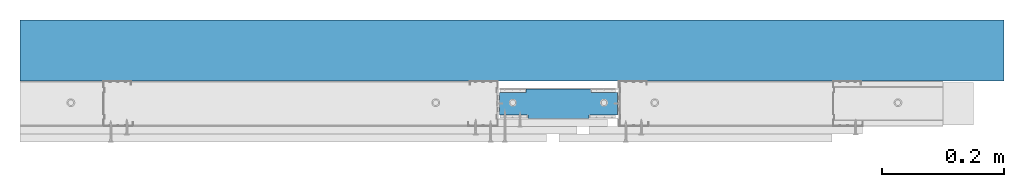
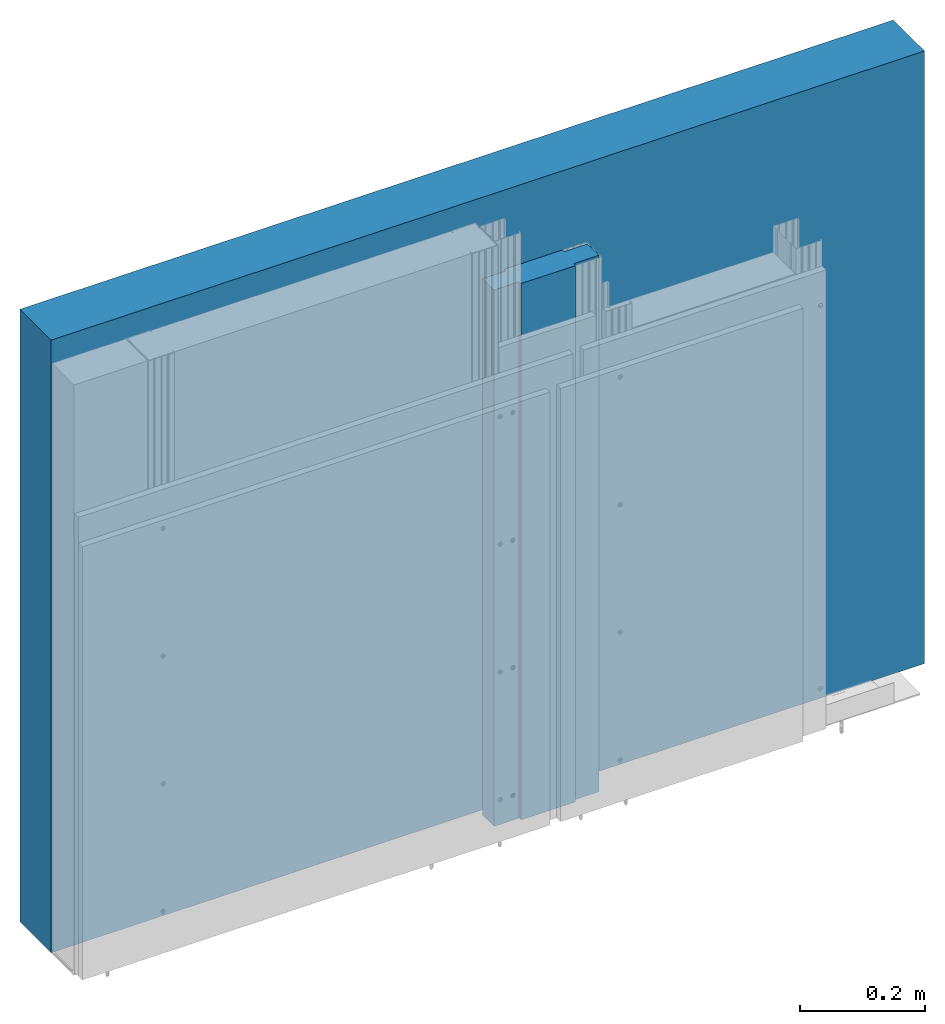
# One storey, part 1 of 39: 2 walls.
"""IFC2X3 building model written with IfcOpenShell, lengths in millimetres."""

import ifcopenshell
import ifcopenshell.guid

model = None  # the IFC model being written
_history = None  # IfcOwnerHistory: only IFC2X3 demands one
_inside = {}  # id of a spatial element -> (the spatial element, [elements in it])
_under = {}  # id of a project, library or spatial element -> (it, [spatial elements below it])
_declared = {}  # id of a project -> (the project, [libraries it declares])
_typed = {}  # id of a type object -> (the type object, [elements of that type])
_made_of = {}  # id of a material, layer set ... -> (it, [elements and type objects made of it])


def new_model(schema):
    """Start an empty IFC model of exactly this schema.

    Asked for "IFC4X3", IfcOpenShell would pick the latest addendum, in which some entities
    have other attributes; the version numbers below select the first issue.
    IFC2X3 requires an IfcOwnerHistory on every rooted entity: one is made here for all.
    """
    global model, _history
    if schema == "IFC4X3":
        model = ifcopenshell.file(schema_version=(4, 3, 0, 0))
    else:
        model = ifcopenshell.file(schema=schema)
    _inside.clear()
    _under.clear()
    _declared.clear()
    _typed.clear()
    _made_of.clear()
    _history = None
    if model.schema == "IFC2X3":
        org = make("IfcOrganization", Name="unknown")
        user = make(
            "IfcPersonAndOrganization",
            ThePerson=make("IfcPerson", FamilyName="unknown"),
            TheOrganization=org,
        )
        app = make(
            "IfcApplication",
            ApplicationDeveloper=org,
            Version="unknown",
            ApplicationFullName="unknown",
            ApplicationIdentifier="unknown",
        )
        _history = make(
            "IfcOwnerHistory",
            OwningUser=user,
            OwningApplication=app,
            ChangeAction="ADDED",
            CreationDate=0,
        )
    return model


def make(cls, **values):
    """One entity of the class cls with the attributes given. An attribute that is None is left unset."""
    return model.create_entity(
        cls, **{name: value for name, value in values.items() if value is not None}
    )


def entity(cls, *values):
    """Any entity or typed value of the class cls, its attributes in the order of the schema. None: left unset."""
    e = model.create_entity(cls)
    for i, value in enumerate(values):
        if value is not None:
            e[i] = value
    return e


def rooted(cls, **values):
    """An entity with a GlobalId (a new one), such as an element, a storey or a relation."""
    return make(cls, GlobalId=ifcopenshell.guid.new(), OwnerHistory=_history, **values)


def si_unit(unit_type, name, prefix=None):
    """IfcSIUnit, for example si_unit("LENGTHUNIT", "METRE", prefix="MILLI")."""
    return make("IfcSIUnit", UnitType=unit_type, Prefix=prefix, Name=name)


def converted_unit(unit_type, name, factor, base, dimensions=None, offset=None):
    """IfcConversionBasedUnit, such as the inch: factor (a typed value) times the base unit."""
    return make(
        "IfcConversionBasedUnit"
        if offset is None
        else "IfcConversionBasedUnitWithOffset",
        ConversionOffset=offset,
        Dimensions=None
        if dimensions is None
        else entity("IfcDimensionalExponents", *dimensions),
        UnitType=unit_type,
        Name=name,
        ConversionFactor=make(
            "IfcMeasureWithUnit", ValueComponent=factor, UnitComponent=base
        ),
    )


def assignment(units):
    """IfcUnitAssignment: the units of a project."""
    return None if units is None else make("IfcUnitAssignment", Units=units)


def point(xyz):
    """IfcCartesianPoint."""
    return None if xyz is None else make("IfcCartesianPoint", Coordinates=xyz)


def direction(xyz):
    """IfcDirection."""
    return None if xyz is None else make("IfcDirection", DirectionRatios=xyz)


def frame(location, z_axis=None, x_axis=None):
    """IfcAxis2Placement3D, a coordinate frame: its origin and axes. An axis left out is left unset."""
    return make(
        "IfcAxis2Placement3D",
        Location=point(location),
        Axis=direction(z_axis),
        RefDirection=direction(x_axis),
    )


def origin():
    """The frame at (0, 0, 0) with its axes left unset."""
    return frame((0.0, 0.0, 0.0))


def origin_with_axes():
    """The frame at (0, 0, 0) with the z axis (0, 0, 1) and the x axis (1, 0, 0) written out."""
    return frame((0.0, 0.0, 0.0), z_axis=(0.0, 0.0, 1.0), x_axis=(1.0, 0.0, 0.0))


def place(relative_to, where):
    """IfcLocalPlacement: puts the frame where relative to a parent placement (None: the world)."""
    return make(
        "IfcLocalPlacement", PlacementRelTo=relative_to, RelativePlacement=where
    )


def context(
    kind, dimensions, precision=None, world=None, true_north=None, identifier=None
):
    """IfcGeometricRepresentationContext, for example the 3D "Model" context."""
    return make(
        "IfcGeometricRepresentationContext",
        ContextIdentifier=identifier,
        ContextType=kind,
        CoordinateSpaceDimension=dimensions,
        Precision=precision,
        WorldCoordinateSystem=world,
        TrueNorth=true_north,
    )


def project(units=None, contexts=None):
    """IfcProject with its units and contexts."""
    return rooted(
        "IfcProject",
        Name="project",
        RepresentationContexts=contexts,
        UnitsInContext=assignment(units),
    )


def spatial(cls, under=None, at=None, **own):
    """A site, building, storey or space (cls), placed at a placement, below another one or the project."""
    s = rooted(cls, ObjectPlacement=at, **own)
    if under is not None:
        _under.setdefault(under.id(), (under, []))[1].append(s)
    return s


def faces_of(points, faces, orient=None, outer=None):
    """IfcFace entities. A face is a list of loops; a loop is a list of indices into points, from 0.

    orient and outer hold one flag for each loop. By default every Orientation is true, the
    first loop of a face is its IfcFaceOuterBound and the others are IfcFaceBound.
    """
    made = []
    for i, loops in enumerate(faces):
        bounds = []
        for j, loop in enumerate(loops):
            is_outer = j == 0 if outer is None else outer[i][j]
            bounds.append(
                make(
                    "IfcFaceOuterBound" if is_outer else "IfcFaceBound",
                    Bound=make("IfcPolyLoop", Polygon=[points[k] for k in loop]),
                    Orientation=True if orient is None else orient[i][j],
                )
            )
        made.append(make("IfcFace", Bounds=bounds))
    return made


def faceted_brep(points, faces, orient=None, outer=None, voids=None):
    """IfcFacetedBrep: a solid bounded by flat faces; with voids (closed shells), ...WithVoids."""
    shared = [point(p) for p in points]
    hull = make("IfcClosedShell", CfsFaces=faces_of(shared, faces, orient, outer))
    if voids is None:
        return make("IfcFacetedBrep", Outer=hull)
    return make(
        "IfcFacetedBrepWithVoids",
        Outer=hull,
        Voids=[
            make(cls, CfsFaces=faces_of(shared, fs, o, b)) for cls, fs, o, b in voids
        ],
    )


def shape(context_of_items, identifier, shape_type, items):
    """IfcShapeRepresentation: the items that make up one representation, for example the "Body"."""
    return make(
        "IfcShapeRepresentation",
        ContextOfItems=context_of_items,
        RepresentationIdentifier=identifier,
        RepresentationType=shape_type,
        Items=items,
    )


def made_of(thing, what):
    """Note that an element or type object is made of a material, layer set ...; save() writes the relation."""
    if what is not None:
        _made_of.setdefault(what.id(), (what, []))[1].append(thing)
    return thing


def element(
    cls,
    number,
    at=None,
    inside=None,
    cuts=None,
    type_object=None,
    material=None,
    context=None,
    identifier="Body",
    shape_type=None,
    held_by="IfcProductDefinitionShape",
    body=None,
    shapes=None,
    **own,
):
    """One element of the class cls, such as IfcWall. Its Tag is "e" and its number.

    at: its placement. inside: the storey or other place that contains it. cuts: it is an
    opening in that element (IfcRelVoidsElement). A single representation is given by context,
    identifier, shape_type and body (its items); several are given by shapes. held_by: the class
    of the entity that holds the representations. save() writes the other relations.
    """
    e = rooted(cls, Tag="e%d" % number, ObjectPlacement=at, **own)
    if body is not None:
        shapes = [shape(context, identifier, shape_type, body)]
    if shapes is not None:
        e.Representation = make(held_by, Representations=shapes)
    if inside is not None:
        _inside.setdefault(inside.id(), (inside, []))[1].append(e)
    if cuts is not None:
        rooted(
            "IfcRelVoidsElement", RelatingBuildingElement=cuts, RelatedOpeningElement=e
        )
    if type_object is not None:
        _typed.setdefault(type_object.id(), (type_object, []))[1].append(e)
    return made_of(e, material)


def aggregate(whole, parts):
    """IfcRelAggregates: a whole, such as a stair, and the parts it consists of."""
    return rooted("IfcRelAggregates", RelatingObject=whole, RelatedObjects=parts)


def save(model, path):
    """Write the relations noted so far, then the file.

    IfcRelAggregates (storeys below a building ...), IfcRelContainedInSpatialStructure (elements
    in a storey), IfcRelDefinesByType, IfcRelAssociatesMaterial and IfcRelDeclares: one each for
    every whole, place, type object, material and project.
    """
    for whole, parts in _under.values():
        aggregate(whole, parts)
    for where, things in _inside.values():
        rooted(
            "IfcRelContainedInSpatialStructure",
            RelatedElements=things,
            RelatingStructure=where,
        )
    for kind, things in _typed.values():
        rooted("IfcRelDefinesByType", RelatedObjects=things, RelatingType=kind)
    for what, things in _made_of.values():
        rooted("IfcRelAssociatesMaterial", RelatedObjects=things, RelatingMaterial=what)
    for by, libraries in _declared.values():
        rooted("IfcRelDeclares", RelatingContext=by, RelatedDefinitions=libraries)
    model.write(path)


model = new_model("IFC2X3")

# Units and contexts
model_context = context("Model", 3, precision=1e-05, world=origin(), true_north=direction((0.0, 1.0, 0.0)))
ifc_project = project(units=[si_unit("LENGTHUNIT", "METRE", prefix="MILLI"), si_unit("AREAUNIT", "SQUARE_METRE"), si_unit("VOLUMEUNIT", "CUBIC_METRE"), converted_unit("PLANEANGLEUNIT", "DEGREE", entity("IfcPlaneAngleMeasure", 0.01745), si_unit("PLANEANGLEUNIT", "RADIAN"), dimensions=[0, 0, 0, 0, 0, 0, 0]), si_unit("SOLIDANGLEUNIT", "STERADIAN"), si_unit("MASSUNIT", "GRAM"), si_unit("TIMEUNIT", "SECOND"), si_unit("THERMODYNAMICTEMPERATUREUNIT", "DEGREE_CELSIUS"), si_unit("LUMINOUSINTENSITYUNIT", "LUMEN")], contexts=[model_context])

# Site, building, storey
site_placement = place(None, origin_with_axes())
site = spatial("IfcSite", under=ifc_project, at=site_placement, Name="Default Site", CompositionType="ELEMENT")
building_placement = place(site_placement, origin_with_axes())
building = spatial("IfcBuilding", under=site, at=building_placement, Name="Default Building", CompositionType="ELEMENT")
storey_placement = place(building_placement, origin_with_axes())
storey = spatial("IfcBuildingStorey", under=building, at=storey_placement, Name="Default Building Storey", CompositionType="ELEMENT", Elevation=0.0)

# Walls
wall_1_placement = place(storey_placement, frame((3516.951496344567, -1288.142300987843, 6.584025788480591), z_axis=(7.620176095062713e-14, 6.858158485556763e-13, 1.0), x_axis=(1.0, 9.714451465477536e-17, -7.62017609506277e-14)))
element("IfcWall", 1, at=wall_1_placement, inside=storey, Name="ŚCIANA", context=model_context, shape_type="Brep", body=[
    faceted_brep([(-1391.926362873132, 3410.283223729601, -4.2000000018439), (226.0891218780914, 3410.283223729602, -4.20000000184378), (226.0891218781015, 3310.283223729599, -4.200000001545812), (-1391.926362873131, 3310.283223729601, -4.200000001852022), (226.0891218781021, 3310.283223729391, 1195.799999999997), (-1391.926362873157, 3310.283223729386, 1195.800000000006), (226.0891218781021, 3410.28322372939, 1195.799999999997), (-1391.926362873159, 3410.28322372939, 1195.8)], [[[0, 1, 2, 3]], [[3, 2, 4, 5]], [[6, 7, 5, 4]], [[4, 2, 1, 6]], [[0, 7, 6, 1]], [[0, 3, 5, 7]]]),
])
wall_2_placement = place(storey_placement, frame((3074.578190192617, 5439.924146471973, 8.800611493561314), z_axis=(0.0, 0.0, 1.0), x_axis=(1.0, 0.0, 0.0)))
element("IfcWall", 2, at=wall_2_placement, inside=storey, Name="Wełna mineralna szklana lub skalna ISOVER", context=model_context, shape_type="Brep", body=[
    faceted_brep([(-10.64588196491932, -3431.283223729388, 1049.589784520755), (-10.64588196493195, -3431.283223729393, -1.064802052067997), (-10.64588196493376, -3436.833223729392, -1.064802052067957), (-10.64588196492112, -3436.833223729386, 1049.589784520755), (33.00411803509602, -3436.833223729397, -1.064802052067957), (33.00411803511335, -3436.833223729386, 1049.589784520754), (-13.64588196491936, -3479.633223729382, -1.064802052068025), (-13.64588196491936, -3479.633223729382, 1049.589784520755), (-13.64588196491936, -3473.633223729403, 1049.589784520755), (-13.64588196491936, -3473.633223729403, -1.064802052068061), (33.00411803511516, -3473.633223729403, 1049.589784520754), (33.00411803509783, -3473.633223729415, -1.064802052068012), (-114.6214102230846, -3479.633223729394, -1.064802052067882), (-114.6214102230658, -3479.633223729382, 1049.589784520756), (-161.2958819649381, -3473.633223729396, -1.064802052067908), (-161.2958819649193, -3473.633223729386, 1049.589784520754), (-114.6214102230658, -3473.633223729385, 1049.589784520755), (-114.6214102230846, -3473.633223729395, -1.064802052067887), (-161.2958819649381, -3436.833223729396, -1.064802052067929), (-161.2958819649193, -3436.833223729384, 1049.589784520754), (-117.6214102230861, -3436.833223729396, -1.064802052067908), (-117.6214102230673, -3436.833223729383, 1049.589784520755), (-117.6214102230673, -3431.283223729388, 1049.589784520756), (-117.6214102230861, -3431.283223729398, -1.064802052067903)], [[[0, 1, 2, 3]], [[2, 4, 5, 3]], [[6, 7, 8, 9]], [[8, 10, 11, 9]], [[6, 12, 13, 7]], [[14, 15, 16, 17]], [[17, 16, 13, 12]], [[15, 14, 18, 19]], [[19, 18, 20, 21]], [[0, 22, 23, 1]], [[21, 20, 23, 22]], [[17, 12, 6, 9, 11, 4, 2, 1, 23, 20, 18, 14]], [[7, 13, 16, 15, 19, 21, 22, 0, 3, 5, 10, 8]], [[10, 5, 4, 11]]]),
])

save(model, "model.ifc")
